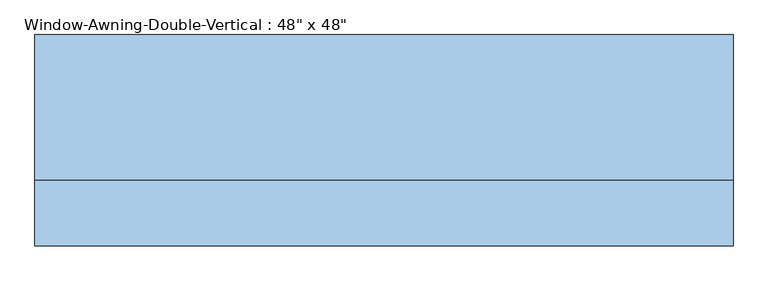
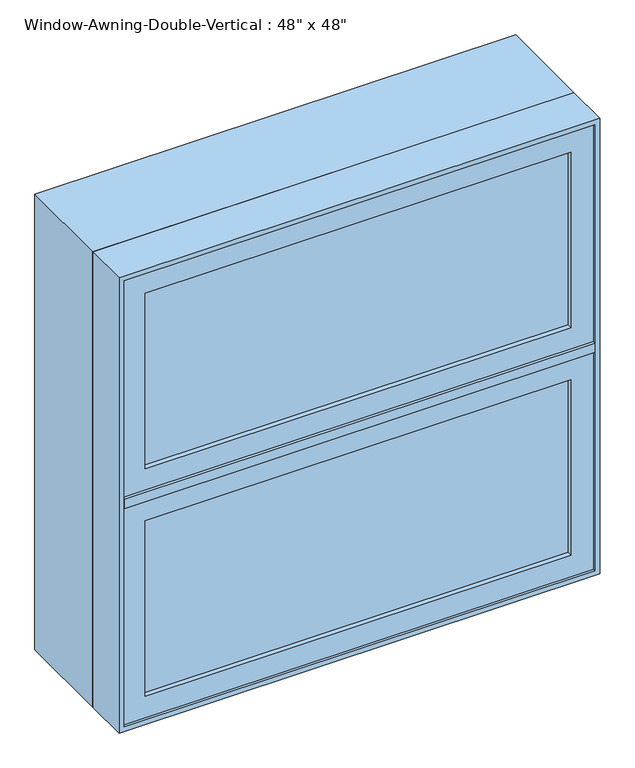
"""IFC4 building model written with IfcOpenShell, lengths in millimetres: window geometry."""

from ifc_helpers import new_model, si_unit, frame, origin, place, context, project, spatial, polyline, outline, extrude, faceted_brep, source, transform, mapped, element, save


def window_28d7aabf(model_context):
    return source(origin(), model_context, "Body", "SolidModel", [
        extrude(outline(polyline([(927.1, -596.9), (927.1, 596.9), (1511.3, 596.9), (1511.3, -596.9), (927.1, -596.9)]), holes=[polyline([(984.25, 539.75), (984.25, -539.75), (1454.15, -539.75), (1454.15, 539.75), (984.25, 539.75)])]), frame((0.0, -187.7, 0.0), z_axis=(0.0, 1.0, 0.0), x_axis=(0.0, 0.0, 1.0)), (0.0, 0.0, 1.0), 44.45),
        extrude(outline(polyline([(-596.9, -143.25), (-577.85, -143.25), (-577.85, -79.75), (577.85, -79.75), (577.85, -143.25), (596.9, -143.25), (596.9, -194.05), (-596.9, -194.05), (-596.9, -143.25)])), frame((0.0, 0.0, 1511.3), z_axis=(0.0, 0.0, 1.0), x_axis=(1.0, 0.0, 0.0)), (0.0, 0.0, 1.0), 25.4),
        extrude(outline(polyline([(539.75, -175.0), (-539.75, -175.0), (-539.75, -168.65), (539.75, -168.65), (539.75, -175.0)])), frame((0.0, 0.0, 984.25), z_axis=(0.0, 0.0, 1.0), x_axis=(1.0, 0.0, 0.0)), (0.0, 0.0, 1.0), 469.9),
        extrude(outline(polyline([(539.75, -162.3), (-539.75, -162.3), (-539.75, -155.95), (539.75, -155.95), (539.75, -162.3)])), frame((0.0, 0.0, 984.25), z_axis=(0.0, 0.0, 1.0), x_axis=(1.0, 0.0, 0.0)), (0.0, 0.0, 1.0), 469.9),
        extrude(outline(polyline([(539.75, -175.0), (-539.75, -175.0), (-539.75, -168.65), (539.75, -168.65), (539.75, -175.0)])), frame((0.0, 0.0, 1593.85), z_axis=(0.0, 0.0, 1.0), x_axis=(1.0, 0.0, 0.0)), (0.0, 0.0, 1.0), 469.9),
        extrude(outline(polyline([(539.75, -162.3), (-539.75, -162.3), (-539.75, -155.95), (539.75, -155.95), (539.75, -162.3)])), frame((0.0, 0.0, 1593.85), z_axis=(0.0, 0.0, 1.0), x_axis=(1.0, 0.0, 0.0)), (0.0, 0.0, 1.0), 469.9),
        extrude(outline(polyline([(2120.9, -596.9), (1536.7, -596.9), (1536.7, 596.9), (2120.9, 596.9), (2120.9, -596.9)]), holes=[polyline([(1593.85, -539.75), (2063.75, -539.75), (2063.75, 539.75), (1593.85, 539.75), (1593.85, -539.75)])]), frame((0.0, -187.7, 0.0), z_axis=(0.0, 1.0, 0.0), x_axis=(0.0, 0.0, 1.0)), (0.0, 0.0, 1.0), 44.45),
        faceted_brep([(-609.6, -79.75, 2133.6), (-609.6, -79.75, 914.4), (-609.6, -194.05, 914.4), (-609.6, -194.05, 2133.6), (-596.9, -194.05, 2120.9), (-596.9, -194.05, 927.1), (-596.9, -143.25, 927.1), (-596.9, -143.25, 2120.9), (-577.85, -143.25, 2101.85), (-577.85, -143.25, 946.15), (-577.85, -79.75, 946.15), (-577.85, -79.75, 2101.85), (609.6, -79.75, 914.4), (609.6, -194.05, 914.4), (596.9, -194.05, 927.1), (596.9, -143.25, 927.1), (577.85, -143.25, 946.15), (577.85, -79.75, 946.15), (609.6, -79.75, 2133.6), (609.6, -194.05, 2133.6), (596.9, -194.05, 2120.9), (596.9, -143.25, 2120.9), (577.85, -143.25, 2101.85), (577.85, -79.75, 2101.85)], [[[0, 1, 2, 3]], [[4, 5, 6, 7]], [[8, 9, 10, 11]], [[1, 12, 13, 2]], [[5, 14, 15, 6]], [[9, 16, 17, 10]], [[12, 18, 19, 13]], [[14, 20, 21, 15]], [[16, 22, 23, 17]], [[1, 0, 18, 12], [11, 10, 17, 23]], [[18, 0, 3, 19]], [[3, 2, 13, 19], [5, 4, 20, 14]], [[20, 4, 7, 21]], [[7, 6, 15, 21], [9, 8, 22, 16]], [[22, 8, 11, 23]]]),
        extrude(outline(polyline([(2133.6, -609.6), (914.4, -609.6), (914.4, 609.6), (2133.6, 609.6), (2133.6, -609.6)]), holes=[polyline([(2114.55, -590.55), (2114.55, 590.55), (933.45, 590.55), (933.45, -590.55), (2114.55, -590.55)])]), frame((0.0, -79.75, 0.0), z_axis=(0.0, 1.0, 0.0), x_axis=(0.0, 0.0, 1.0)), (0.0, 0.0, 1.0), 254.75),
    ])


if __name__ == "__main__":
    model = new_model("IFC4")
    model_context = context("Model", 3, world=origin())
    ifc_project = project(units=[si_unit("LENGTHUNIT", "METRE", prefix="MILLI")], contexts=[model_context])
    site = spatial("IfcSite", under=ifc_project)
    building = spatial("IfcBuilding", under=site)
    placement = place(None, origin())
    window_shape = window_28d7aabf(model_context)
    element("IfcWindow", 1, ObjectType="Window-Awning-Double-Vertical : 48\" x 48\"", at=placement, inside=building, context=model_context, shape_type="MappedRepresentation", body=[
        mapped(window_shape, transform((0.0, 0.0, 0.0), x_axis=(1.0, 0.0, 0.0), y_axis=(0.0, 1.0, 0.0), z_axis=(0.0, 0.0, 1.0))),
    ])
    save(model, "model.ifc")
